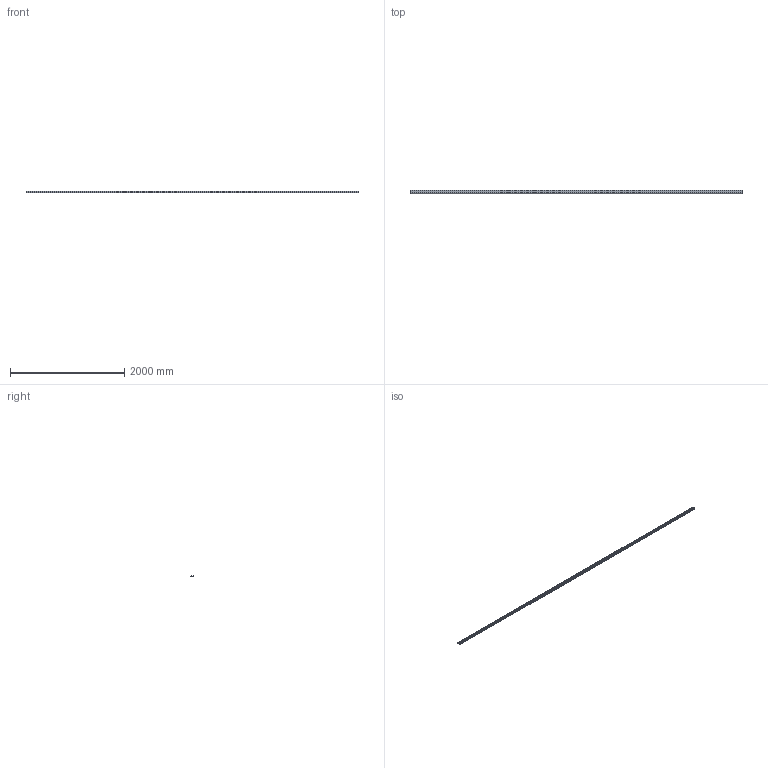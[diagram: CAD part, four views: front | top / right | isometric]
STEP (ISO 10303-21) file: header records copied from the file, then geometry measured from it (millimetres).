
FILE_DESCRIPTION(('STEP AP242'),'1');
FILE_NAME('OPO_51.047.13_volu_schn_3d.stp','2026-01-30T20:43:46',(' '),(' '),'Spatial InterOp 3D',' ',' ');
FILE_SCHEMA(('AP242_MANAGED_MODEL_BASED_3D_ENGINEERING_MIM_LF {1 0 10303 442 1 1 4}'));
Length unit declared in the file: millimetre
Products named in the file (1): 1
Bounding box: 5800 x 57 x 24.33 mm (x, y, z)
Volume: 1611381.5 mm3; surface area: 1867517.1 mm2
Topology: 1 solids, 1 shells, 102 faces, 700 edges, 1020 vertices
Faces by surface type: plane 78, cylinder 24
Entity records: 9160 total; most frequent: DIRECTION 1040, CARTESIAN_POINT 994, ORIENTED_EDGE 570, LINE 568, VECTOR 568, STYLED_ITEM 517, PRESENTATION_STYLE_ASSIGNMENT 517, COLOUR_RGB 517
